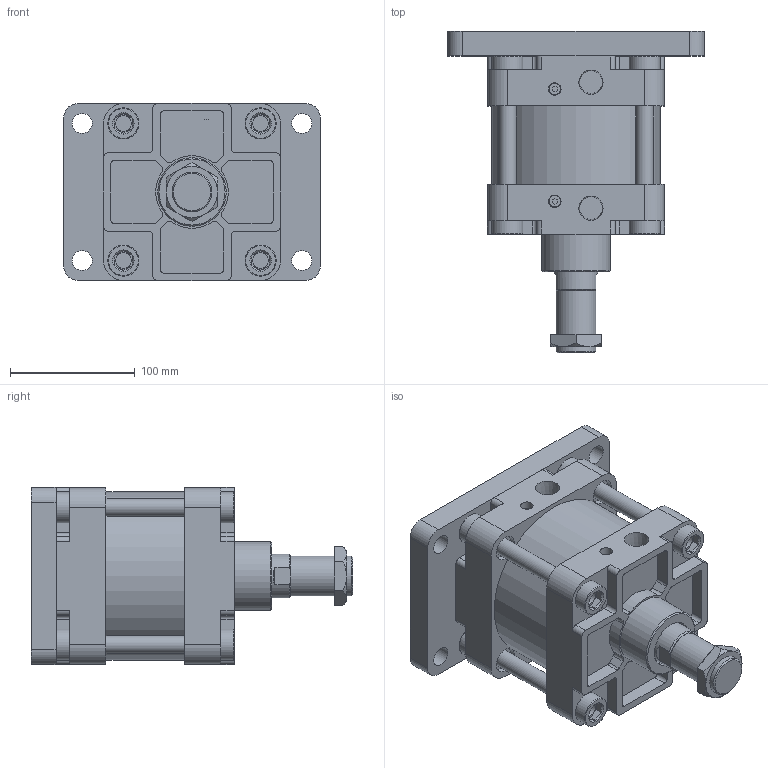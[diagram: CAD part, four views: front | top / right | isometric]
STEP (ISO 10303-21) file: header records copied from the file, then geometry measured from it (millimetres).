
FILE_DESCRIPTION(/* description */ ('Unknown'),/* implementation_level */ '2;1');
FILE_NAME(/* name */ 'WA125-0-FB',/* time_stamp */ '2026-07-17T16:59:12+08:00',/* author */ ('Unknown'),/* organization */ ('Unknown'),/* preprocessor_version */ 'ST-DEVELOPER v16.7',/* originating_system */ 'DEX',/* authorisation */ $);
FILE_SCHEMA (('CONFIG_CONTROL_DESIGN'));
Length unit declared in the file: millimetre
Products named in the file (8): WA125-0-FB; WA125_前; WA125_後; WA125_ｾT∫ｮ｡; WA125_､ﾟｶbｬ｡; M32-2.0P-10_螺; WA125_FA; WA125_T帽牙
Assembly tree (9 placements, depth 2):
  WA125-0-FB
    WA125_前
    WA125_後
    WA125_ｾT∫ｮ｡
    WA125_､ﾟｶbｬ｡
    M32-2.0P-10_螺
    WA125_FA
    WA125_T帽牙  x3
Bounding box: 206 x 258 x 142 mm (x, y, z)
Volume: 2846142.2 mm3; surface area: 407550.9 mm2
Topology: 10 solids, 10 shells, 417 faces, 1021 edges, 680 vertices
Faces by surface type: plane 230, cylinder 156, cone 23, torus 8
Full cylindrical faces by diameter (mm): 9 x2, 10 x2, 12.5 x8, 14 x4, 15 x4, 16 x4, 20 x8, 20.5 x8, 22.5 x4, 25 x8, 30 x1, 32 x1, 35 x1, 36 x1, 41 x1, 55 x1, 57 x1, 124.5 x1, 125 x3, 135 x1
Entity records: 11502 total; most frequent: CARTESIAN_POINT 1719, DIRECTION 1666, ORIENTED_EDGE 1472, EDGE_CURVE 736, AXIS2_PLACEMENT_3D 629, VERTEX_POINT 518, EDGE_LOOP 444, FACE_BOUND 444
